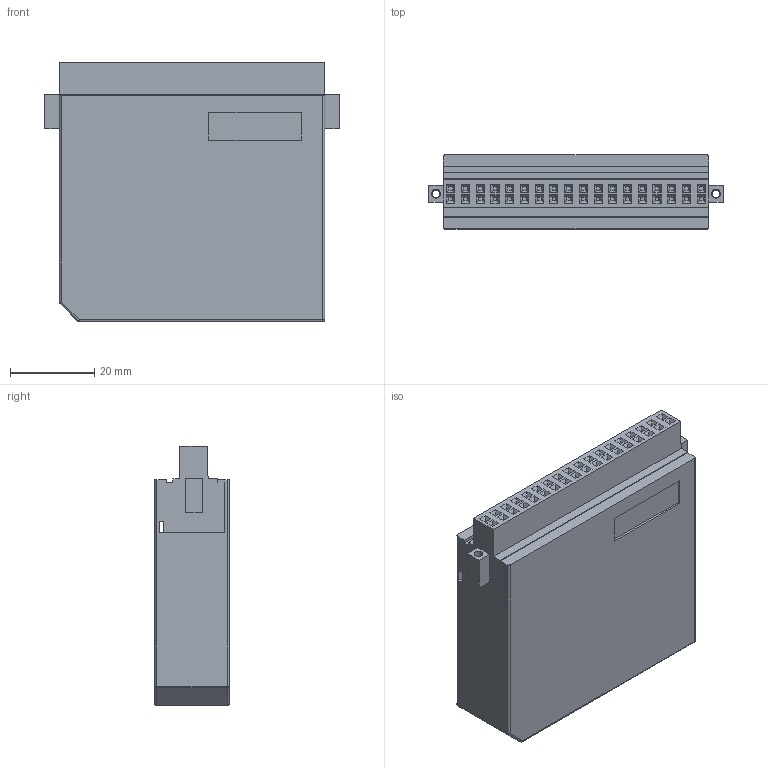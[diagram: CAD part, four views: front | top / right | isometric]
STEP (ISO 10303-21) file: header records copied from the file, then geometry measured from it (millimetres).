
FILE_DESCRIPTION((''),'2;1');
FILE_NAME('CONN_CRIO_36_POS_WEID_TB','2007-01-25T',('chrisj'),(''),'PRO/ENGINEER BY PARAMETRIC TECHNOLOGY CORPORATION, 2006080','PRO/ENGINEER BY PARAMETRIC TECHNOLOGY CORPORATION, 2006080','');
FILE_SCHEMA(('AUTOMOTIVE_DESIGN_CC2 { 1 2 10303 214 -1 1 5 2 }'));
Length unit declared in the file: inch
Products named in the file (1): CONN_CRIO_36_POS_WEID_TB
Bounding box: 70 x 17.65 x 61.75 mm (x, y, z)
Volume: 23222.4 mm3; surface area: 23653.7 mm2
Topology: 1 solids, 1 shells, 889 faces, 1999 edges, 1230 vertices
Faces by surface type: plane 636, cylinder 167, cone 72, sphere 6, bspline 6, extrusion 2
Entity records: 24967 total; most frequent: CARTESIAN_POINT 4940, DIRECTION 4081, ORIENTED_EDGE 3998, EDGE_CURVE 1999, VECTOR 1647, LINE 1645, VERTEX_POINT 1230, AXIS2_PLACEMENT_3D 1217
